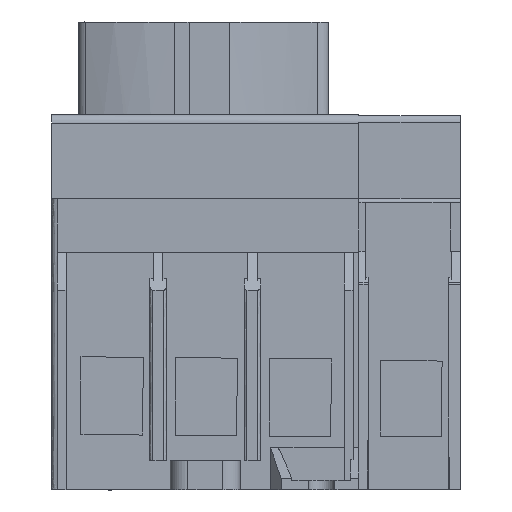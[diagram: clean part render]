
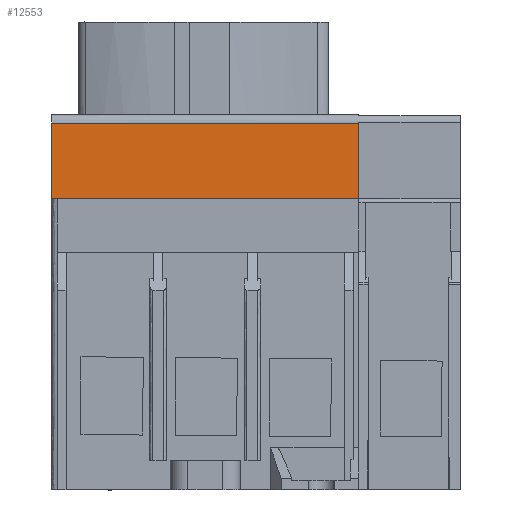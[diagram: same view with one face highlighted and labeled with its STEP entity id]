
A CAD part, front view. The second image highlights one B-rep face of the part: STEP entity #12553.
In plain terms, the highlighted planar face has unit normal (0, -1, 0).
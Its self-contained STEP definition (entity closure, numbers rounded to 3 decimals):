
#56 = AXIS2_PLACEMENT_3D ( 'NONE', #5948, #7077, #7277 ) ;
#162 = VERTEX_POINT ( 'NONE', #2268 ) ;
#389 = PLANE ( 'NONE',  #56 ) ;
#616 = DIRECTION ( 'NONE',  ( 0., 0., -1. ) ) ;
#746 = ORIENTED_EDGE ( 'NONE', *, *, #5405, .F. ) ;
#1714 = DIRECTION ( 'NONE',  ( -1., 0., 0. ) ) ;
#1787 = CARTESIAN_POINT ( 'NONE',  ( -26.1, -22.75, 62.35 ) ) ;
#2148 = LINE ( 'NONE', #12908, #11059 ) ;
#2268 = CARTESIAN_POINT ( 'NONE',  ( -26.1, -22.75, 49.5 ) ) ;
#2488 = CARTESIAN_POINT ( 'NONE',  ( 26.1, -22.75, 62.35 ) ) ;
#3411 = EDGE_CURVE ( 'NONE', #162, #14438, #12298, .T. ) ;
#3454 = VECTOR ( 'NONE', #10553, 1000. ) ;
#4312 = CARTESIAN_POINT ( 'NONE',  ( 26.1, -22.75, 49.603 ) ) ;
#4416 = VERTEX_POINT ( 'NONE', #2488 ) ;
#5093 = LINE ( 'NONE', #9187, #6133 ) ;
#5405 = EDGE_CURVE ( 'NONE', #7152, #162, #5093, .T. ) ;
#5883 = LINE ( 'NONE', #10597, #3454 ) ;
#5948 = CARTESIAN_POINT ( 'NONE',  ( 73.809, -22.75, 0. ) ) ;
#6133 = VECTOR ( 'NONE', #11622, 1000. ) ;
#7077 = DIRECTION ( 'NONE',  ( 0., -1., 0. ) ) ;
#7152 = VERTEX_POINT ( 'NONE', #13960 ) ;
#7277 = DIRECTION ( 'NONE',  ( 1., 0., 0. ) ) ;
#7310 = CARTESIAN_POINT ( 'NONE',  ( 73.809, -22.75, 62.35 ) ) ;
#7855 = VERTEX_POINT ( 'NONE', #4312 ) ;
#8147 = CARTESIAN_POINT ( 'NONE',  ( -26.1, -22.75, 0. ) ) ;
#8661 = ORIENTED_EDGE ( 'NONE', *, *, #13632, .T. ) ;
#9187 = CARTESIAN_POINT ( 'NONE',  ( 73.809, -22.75, 49.5 ) ) ;
#9908 = FACE_OUTER_BOUND ( 'NONE', #12393, .T. ) ;
#10212 = ORIENTED_EDGE ( 'NONE', *, *, #13107, .T. ) ;
#10553 = DIRECTION ( 'NONE',  ( 0., 0., 1. ) ) ;
#10576 = EDGE_CURVE ( 'NONE', #4416, #7855, #2148, .T. ) ;
#10597 = CARTESIAN_POINT ( 'NONE',  ( 26.1, -22.75, 0. ) ) ;
#10696 = VECTOR ( 'NONE', #11503, 1000. ) ;
#11059 = VECTOR ( 'NONE', #616, 1000. ) ;
#11503 = DIRECTION ( 'NONE',  ( 0., 0., 1. ) ) ;
#11622 = DIRECTION ( 'NONE',  ( -1., 0., 0. ) ) ;
#11894 = VECTOR ( 'NONE', #1714, 1000. ) ;
#12298 = LINE ( 'NONE', #8147, #10696 ) ;
#12393 = EDGE_LOOP ( 'NONE', ( #12395, #10212, #13776, #746, #8661 ) ) ;
#12395 = ORIENTED_EDGE ( 'NONE', *, *, #10576, .F. ) ;
#12553 = ADVANCED_FACE ( 'NONE', ( #9908 ), #389, .T. ) ;
#12908 = CARTESIAN_POINT ( 'NONE',  ( 26.1, -22.75, 0. ) ) ;
#13107 = EDGE_CURVE ( 'NONE', #4416, #14438, #14144, .T. ) ;
#13632 = EDGE_CURVE ( 'NONE', #7152, #7855, #5883, .T. ) ;
#13776 = ORIENTED_EDGE ( 'NONE', *, *, #3411, .F. ) ;
#13960 = CARTESIAN_POINT ( 'NONE',  ( 26.1, -22.75, 49.5 ) ) ;
#14144 = LINE ( 'NONE', #7310, #11894 ) ;
#14438 = VERTEX_POINT ( 'NONE', #1787 ) ;
